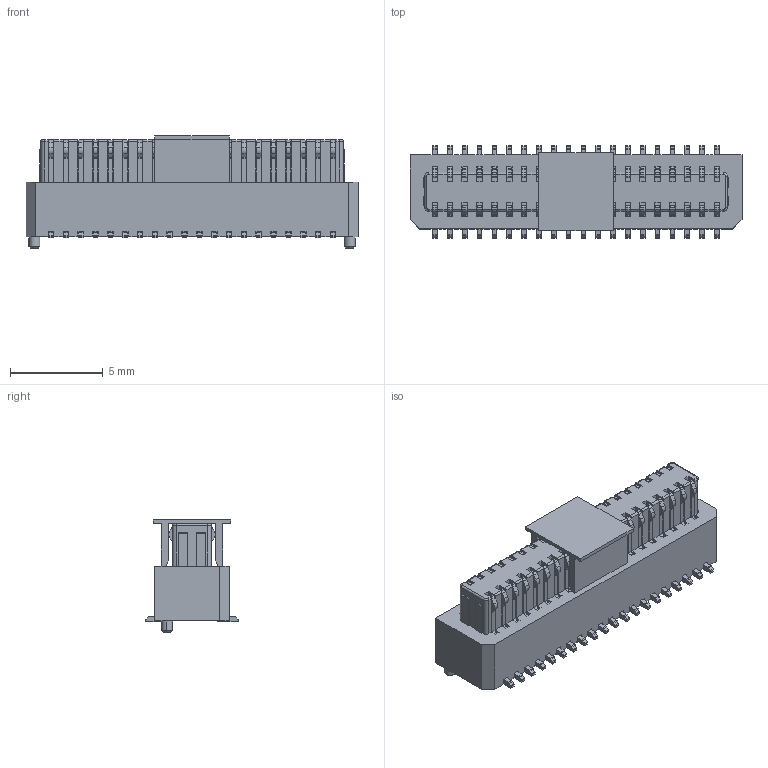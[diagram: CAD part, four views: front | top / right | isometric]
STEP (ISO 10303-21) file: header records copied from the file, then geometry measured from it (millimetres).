
FILE_DESCRIPTION(('CATIA V5 STEP Exchange'),'2;1');
FILE_NAME('F:\黄富鸿\板对板\PBB08B\公座\H5.3\带盖\HC-PBB08B-1-40-M-H5.3-XX-R-P-06 (BTB0.8 单槽 B型公座 立贴 带柱 编带+盖)-HCTL.stp','2026-01-27T08:15:31+00:00',('none'),('none'),'CATIA Version 5 Release 20 GA (IN-10)','CATIA V5 STEP AP203','none');
FILE_SCHEMA(('CONFIG_CONTROL_DESIGN'));
Products named in the file (1): Part1
Bounding box: 17.9 x 5 x 6.05 mm (x, y, z)
Volume: 287.3 mm3; surface area: 1273.9 mm2
Topology: 42 solids, 42 shells, 2187 faces, 6448 edges, 4268 vertices
Faces by surface type: plane 1487, cylinder 692, cone 4, torus 4
Entity records: 67231 total; most frequent: ORIENTED_EDGE 12896, CARTESIAN_POINT 12089, DIRECTION 9192, EDGE_CURVE 6448, VECTOR 5056, LINE 5056, VERTEX_POINT 4268, AXIS2_PLACEMENT_3D 2765
